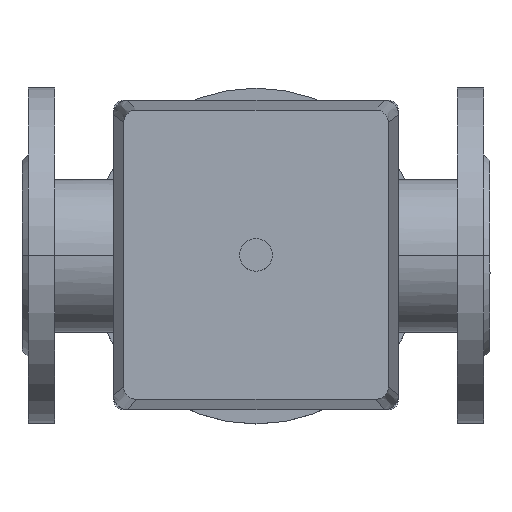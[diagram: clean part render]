
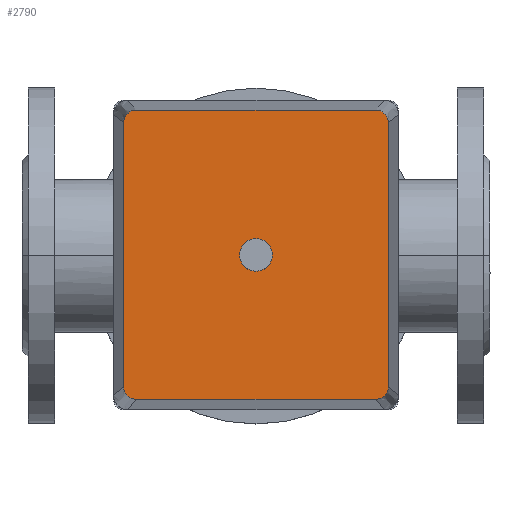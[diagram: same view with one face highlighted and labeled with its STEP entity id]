
A CAD part, top view. The second image highlights one B-rep face of the part: STEP entity #2790.
In plain terms, the highlighted planar face has unit normal (0, 0, 1).
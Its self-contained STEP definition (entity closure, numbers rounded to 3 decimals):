
#273=LINE('',#4823,#455);
#274=LINE('',#4827,#456);
#275=LINE('',#4831,#457);
#276=LINE('',#4835,#458);
#455=VECTOR('',#3855,304.8);
#456=VECTOR('',#3858,304.8);
#457=VECTOR('',#3861,304.8);
#458=VECTOR('',#3864,304.8);
#722=FACE_OUTER_BOUND('',#909,.T.);
#909=EDGE_LOOP('',(#2265,#2266,#2267,#2268,#2269,#2270,#2271,#2272));
#1085=CIRCLE('',#3108,6.);
#1086=CIRCLE('',#3109,6.);
#1087=CIRCLE('',#3110,6.);
#1088=CIRCLE('',#3111,6.);
#1316=VERTEX_POINT('',#4821);
#1317=VERTEX_POINT('',#4822);
#1318=VERTEX_POINT('',#4824);
#1319=VERTEX_POINT('',#4826);
#1320=VERTEX_POINT('',#4828);
#1321=VERTEX_POINT('',#4830);
#1322=VERTEX_POINT('',#4832);
#1323=VERTEX_POINT('',#4834);
#1644=EDGE_CURVE('',#1316,#1317,#273,.T.);
#1645=EDGE_CURVE('',#1317,#1318,#1085,.T.);
#1646=EDGE_CURVE('',#1318,#1319,#274,.T.);
#1647=EDGE_CURVE('',#1319,#1320,#1086,.T.);
#1648=EDGE_CURVE('',#1320,#1321,#275,.T.);
#1649=EDGE_CURVE('',#1321,#1322,#1087,.T.);
#1650=EDGE_CURVE('',#1322,#1323,#276,.T.);
#1651=EDGE_CURVE('',#1323,#1316,#1088,.T.);
#2265=ORIENTED_EDGE('',*,*,#1644,.T.);
#2266=ORIENTED_EDGE('',*,*,#1645,.T.);
#2267=ORIENTED_EDGE('',*,*,#1646,.T.);
#2268=ORIENTED_EDGE('',*,*,#1647,.T.);
#2269=ORIENTED_EDGE('',*,*,#1648,.T.);
#2270=ORIENTED_EDGE('',*,*,#1649,.T.);
#2271=ORIENTED_EDGE('',*,*,#1650,.T.);
#2272=ORIENTED_EDGE('',*,*,#1651,.T.);
#2518=PLANE('',#3107);
#2790=ADVANCED_FACE('',(#722),#2518,.T.);
#3107=AXIS2_PLACEMENT_3D('',#4820,#3853,#3854);
#3108=AXIS2_PLACEMENT_3D('',#4825,#3856,#3857);
#3109=AXIS2_PLACEMENT_3D('',#4829,#3859,#3860);
#3110=AXIS2_PLACEMENT_3D('',#4833,#3862,#3863);
#3111=AXIS2_PLACEMENT_3D('',#4836,#3865,#3866);
#3853=DIRECTION('center_axis',(0.,0.,1.));
#3854=DIRECTION('ref_axis',(0.,-1.,0.));
#3855=DIRECTION('',(0.,-1.,0.));
#3856=DIRECTION('center_axis',(0.,0.,1.));
#3857=DIRECTION('ref_axis',(1.,0.,0.));
#3858=DIRECTION('',(1.,0.,0.));
#3859=DIRECTION('center_axis',(0.,0.,1.));
#3860=DIRECTION('ref_axis',(1.,0.,0.));
#3861=DIRECTION('',(0.,1.,0.));
#3862=DIRECTION('center_axis',(0.,0.,1.));
#3863=DIRECTION('ref_axis',(1.,0.,0.));
#3864=DIRECTION('',(-1.,0.,0.));
#3865=DIRECTION('center_axis',(0.,0.,1.));
#3866=DIRECTION('ref_axis',(1.,0.,0.));
#4820=CARTESIAN_POINT('Origin',(0.,0.,
220.));
#4821=CARTESIAN_POINT('',(-71.,59.,220.));
#4822=CARTESIAN_POINT('',(-71.,-59.,220.));
#4823=CARTESIAN_POINT('',(-71.,-59.,220.));
#4824=CARTESIAN_POINT('',(-65.,-65.,220.));
#4825=CARTESIAN_POINT('Origin',(-65.,-59.,220.));
#4826=CARTESIAN_POINT('',(65.,-65.,220.));
#4827=CARTESIAN_POINT('',(65.,-65.,220.));
#4828=CARTESIAN_POINT('',(71.,-59.,220.));
#4829=CARTESIAN_POINT('Origin',(65.,-59.,220.));
#4830=CARTESIAN_POINT('',(71.,59.,220.));
#4831=CARTESIAN_POINT('',(71.,59.,220.));
#4832=CARTESIAN_POINT('',(65.,65.,220.));
#4833=CARTESIAN_POINT('Origin',(65.,59.,220.));
#4834=CARTESIAN_POINT('',(-65.,65.,220.));
#4835=CARTESIAN_POINT('',(-65.,65.,220.));
#4836=CARTESIAN_POINT('Origin',(-65.,59.,220.));
